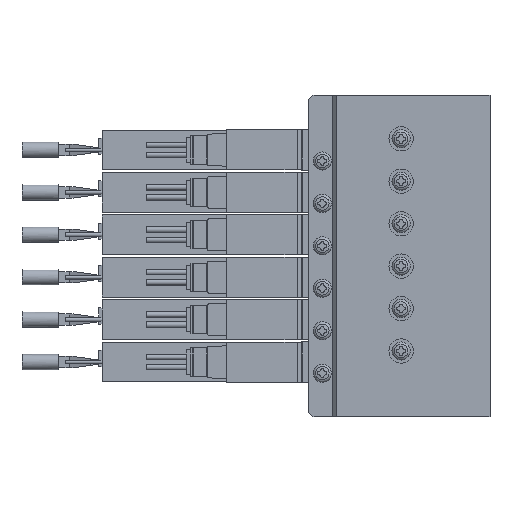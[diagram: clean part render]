
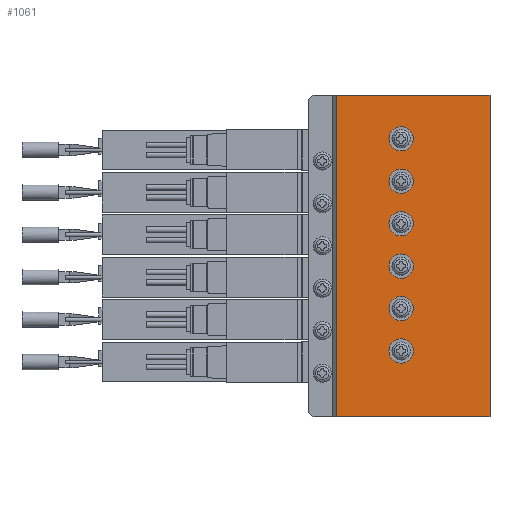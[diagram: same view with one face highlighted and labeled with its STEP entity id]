
A CAD part, left-side view. The second image highlights one B-rep face of the part: STEP entity #1061.
In plain terms, the highlighted planar face has unit normal (-1, 0, 0) as drawn and (1, 0, 0) by its records, which use the part's own axes.
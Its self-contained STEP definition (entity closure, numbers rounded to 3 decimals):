
#1061=ADVANCED_FACE('',(#2483,#2484,#2485,#2486,#2487,#2488,#2489),#2490,.F.);
#2483=FACE_OUTER_BOUND('',#4125,.T.);
#2484=FACE_BOUND('',#4126,.T.);
#2485=FACE_BOUND('',#4127,.T.);
#2486=FACE_BOUND('',#4128,.T.);
#2487=FACE_BOUND('',#4129,.T.);
#2488=FACE_BOUND('',#4130,.T.);
#2489=FACE_BOUND('',#4131,.T.);
#2490=PLANE('',#4132);
#4125=EDGE_LOOP('',(#8850,#8851,#8852,#8853));
#4126=EDGE_LOOP('',(#8854));
#4127=EDGE_LOOP('',(#8855));
#4128=EDGE_LOOP('',(#8856));
#4129=EDGE_LOOP('',(#8857));
#4130=EDGE_LOOP('',(#8858));
#4131=EDGE_LOOP('',(#8859));
#4132=AXIS2_PLACEMENT_3D('',#8860,#8861,#8862);
#8850=ORIENTED_EDGE('',*,*,#11283,.T.);
#8851=ORIENTED_EDGE('',*,*,#11238,.F.);
#8852=ORIENTED_EDGE('',*,*,#11284,.F.);
#8853=ORIENTED_EDGE('',*,*,#11285,.T.);
#8854=ORIENTED_EDGE('',*,*,#11176,.F.);
#8855=ORIENTED_EDGE('',*,*,#11174,.F.);
#8856=ORIENTED_EDGE('',*,*,#10882,.F.);
#8857=ORIENTED_EDGE('',*,*,#10949,.F.);
#8858=ORIENTED_EDGE('',*,*,#11286,.F.);
#8859=ORIENTED_EDGE('',*,*,#11287,.F.);
#8860=CARTESIAN_POINT('',(19.0,0.0,39.75));
#8861=DIRECTION('',(-1.0,0.0,0.0));
#8862=DIRECTION('',(0.0,0.0,1.0));
#10882=EDGE_CURVE('',#13259,#13259,#13260,.T.);
#10949=EDGE_CURVE('',#13383,#13383,#13384,.T.);
#11174=EDGE_CURVE('',#13801,#13801,#13802,.T.);
#11176=EDGE_CURVE('',#13805,#13805,#13806,.T.);
#11238=EDGE_CURVE('',#13899,#13894,#13901,.T.);
#11283=EDGE_CURVE('',#13970,#13894,#13971,.T.);
#11284=EDGE_CURVE('',#13972,#13899,#13973,.T.);
#11285=EDGE_CURVE('',#13972,#13970,#13974,.T.);
#11286=EDGE_CURVE('',#13975,#13975,#13976,.T.);
#11287=EDGE_CURVE('',#13977,#13977,#13978,.T.);
#13259=VERTEX_POINT('',#17432);
#13260=CIRCLE('',#17433,3.0);
#13383=VERTEX_POINT('',#17978);
#13384=CIRCLE('',#17979,3.0);
#13801=VERTEX_POINT('',#18909);
#13802=CIRCLE('',#18910,3.0);
#13805=VERTEX_POINT('',#18913);
#13806=CIRCLE('',#18914,3.0);
#13894=VERTEX_POINT('',#19056);
#13899=VERTEX_POINT('',#19063);
#13901=LINE('',#19066,#19067);
#13970=VERTEX_POINT('',#19163);
#13971=LINE('',#19164,#19165);
#13972=VERTEX_POINT('',#19166);
#13973=LINE('',#19167,#19168);
#13974=LINE('',#19169,#19170);
#13975=VERTEX_POINT('',#19171);
#13976=CIRCLE('',#19172,3.0);
#13977=VERTEX_POINT('',#19173);
#13978=CIRCLE('',#19174,3.0);
#17432=CARTESIAN_POINT('',(19.0,22.0,-21.5));
#17433=AXIS2_PLACEMENT_3D('',#20989,#20990,#20991);
#17978=CARTESIAN_POINT('',(19.0,22.0,-11.0));
#17979=AXIS2_PLACEMENT_3D('',#21105,#21106,#21107);
#18909=CARTESIAN_POINT('',(19.0,22.0,-32.0));
#18910=AXIS2_PLACEMENT_3D('',#21513,#21514,#21515);
#18913=CARTESIAN_POINT('',(19.0,22.0,20.5));
#18914=AXIS2_PLACEMENT_3D('',#21519,#21520,#21521);
#19056=CARTESIAN_POINT('',(19.0,38.0,-39.75));
#19063=CARTESIAN_POINT('',(19.0,38.0,39.75));
#19066=CARTESIAN_POINT('',(19.0,38.0,39.75));
#19067=VECTOR('',#21612,1.0);
#19163=CARTESIAN_POINT('',(19.0,0.0,-39.75));
#19164=CARTESIAN_POINT('',(19.0,0.0,-39.75));
#19165=VECTOR('',#21691,1.0);
#19166=CARTESIAN_POINT('',(19.0,0.0,39.75));
#19167=CARTESIAN_POINT('',(19.0,0.0,39.75));
#19168=VECTOR('',#21692,1.0);
#19169=CARTESIAN_POINT('',(19.0,0.0,39.75));
#19170=VECTOR('',#21693,1.0);
#19171=CARTESIAN_POINT('',(19.0,22.0,-0.5));
#19172=AXIS2_PLACEMENT_3D('',#21694,#21695,#21696);
#19173=CARTESIAN_POINT('',(19.0,22.0,10.0));
#19174=AXIS2_PLACEMENT_3D('',#21697,#21698,#21699);
#20989=CARTESIAN_POINT('',(19.0,22.0,-18.5));
#20990=DIRECTION('',(1.0,0.0,0.0));
#20991=DIRECTION('',(0.0,0.0,-1.0));
#21105=CARTESIAN_POINT('',(19.0,22.0,-8.0));
#21106=DIRECTION('',(1.0,0.0,0.0));
#21107=DIRECTION('',(0.0,0.0,-1.0));
#21513=CARTESIAN_POINT('',(19.0,22.0,-29.0));
#21514=DIRECTION('',(1.0,0.0,0.0));
#21515=DIRECTION('',(0.0,0.0,-1.0));
#21519=CARTESIAN_POINT('',(19.0,22.0,23.5));
#21520=DIRECTION('',(1.0,0.0,0.0));
#21521=DIRECTION('',(0.0,0.0,-1.0));
#21612=DIRECTION('',(0.0,0.0,-1.0));
#21691=DIRECTION('',(0.0,1.0,0.0));
#21692=DIRECTION('',(0.0,1.0,0.0));
#21693=DIRECTION('',(0.0,0.0,-1.0));
#21694=CARTESIAN_POINT('',(19.0,22.0,2.5));
#21695=DIRECTION('',(1.0,0.0,0.0));
#21696=DIRECTION('',(0.0,0.0,-1.0));
#21697=CARTESIAN_POINT('',(19.0,22.0,13.0));
#21698=DIRECTION('',(1.0,0.0,0.0));
#21699=DIRECTION('',(0.0,0.0,-1.0));
